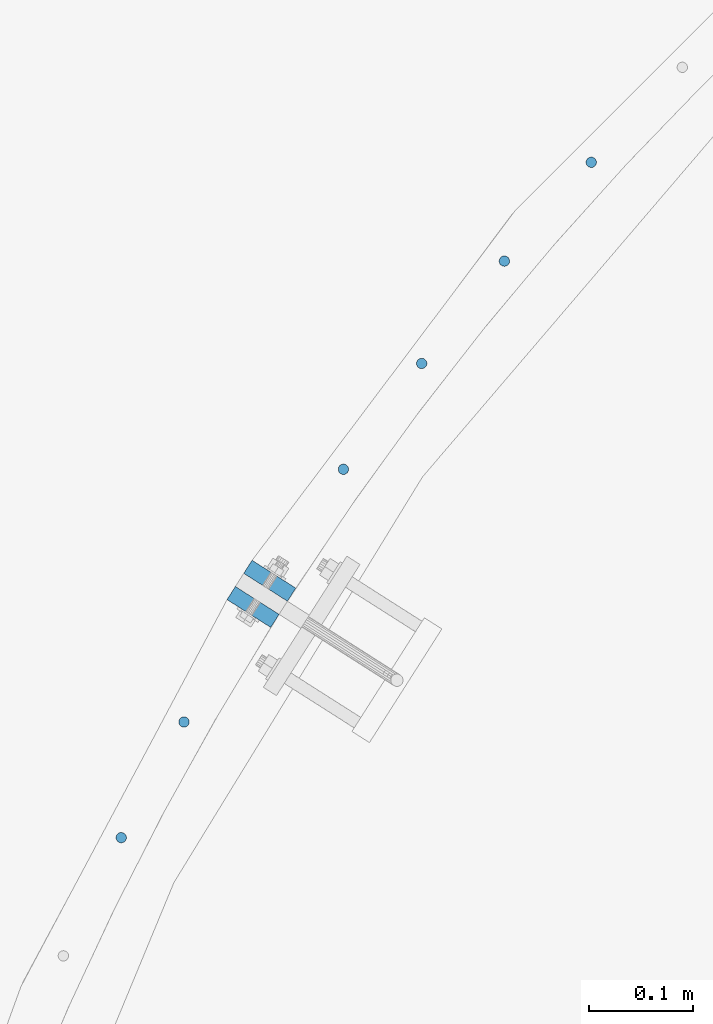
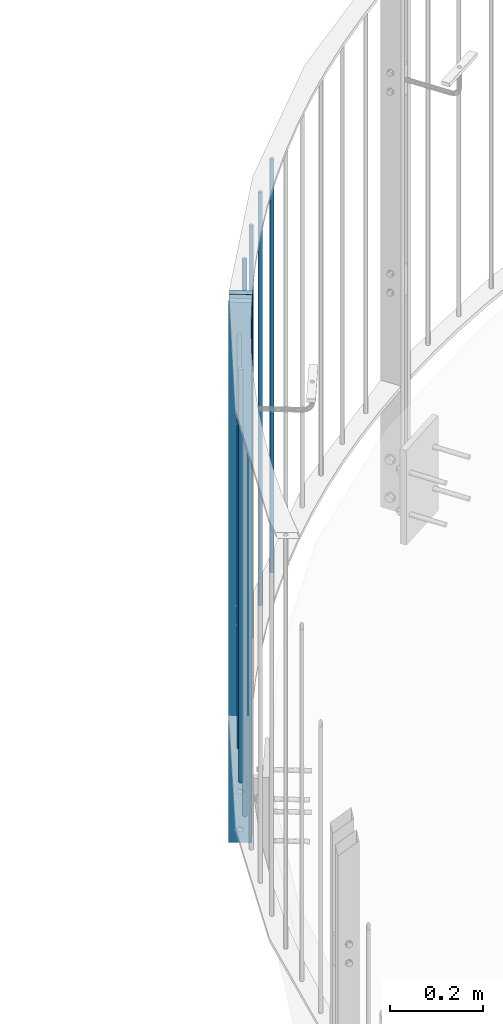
# One storey, part 62 of 296: 8 columns, 12 openings.
"""IFC2X3 building model written with IfcOpenShell, lengths in millimetres."""

from ifc_helpers import new_model, entity, si_unit, converted_unit, frame, frame_2d, origin, origin_with_axes, origin_2d, place, context, project, spatial, rectangle, circle, extrude, material, element, save


model = new_model("IFC2X3")

# Units and contexts
model_context = context("Model", 3, precision=1e-09, world=origin_with_axes())
ifc_project = project(units=[si_unit("LENGTHUNIT", "METRE", prefix="MILLI"), si_unit("AREAUNIT", "SQUARE_METRE"), si_unit("VOLUMEUNIT", "CUBIC_METRE"), converted_unit("PLANEANGLEUNIT", "DEGREE", entity("IfcPlaneAngleMeasure", 0.01745329), si_unit("PLANEANGLEUNIT", "RADIAN"), dimensions=[0, 0, 0, 0, 0, 0, 0])], contexts=[model_context])

# Site, building, storey
site_placement = place(None, origin_with_axes())
site = spatial("IfcSite", under=ifc_project, at=site_placement, Name="TZD-S?d | Treppenhausgel?nder", CompositionType="ELEMENT")
building_placement = place(site_placement, origin_with_axes())
building = spatial("IfcBuilding", under=site, at=building_placement, Name="Struktur 1", CompositionType="ELEMENT")
storey_placement = place(building_placement, origin_with_axes())
storey = spatial("IfcBuildingStorey", under=building, at=storey_placement, Name="Default Storey", CompositionType="ELEMENT", Elevation=0.0)

# Columns
ifc_material = material(Name="S235JR")
for number, where, z_axis, x_axis in (
    (1, (268.009652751, 1271.305762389, 7350.0), (0.0, 0.0, 1.0), (0.0, 1.0, 0.0)),
    (2, (328.618671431, 1382.861709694, 7350.0), (0.0, 0.0, 1.0), (0.0, 1.0, 0.0)),
    (3, (482.404589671, 1626.727106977, 7350.0), (0.0, 0.0, 1.0), (0.422618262, 0.906307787, 0.0)),
    (4, (557.894135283, 1728.803113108, 7350.0), (0.0, 0.0, 1.0), (0.422618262, 0.906307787, 0.0)),
    (5, (637.648869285, 1827.582488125, 7350.0), (0.0, 0.0, 1.0), (0.422618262, 0.906307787, 0.0)),
    (6, (721.525001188, 1922.887141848, 7350.0), (0.0, 0.0, 1.0), (0.422618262, 0.906307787, 0.0)),
):
    element("IfcColumn", number, at=place(None, frame(where, z_axis=z_axis, x_axis=x_axis)), inside=storey, material=ifc_material, Name="-", ObjectType="-", context=model_context, shape_type="SweptSolid", body=[
        extrude(circle(Radius=5.0, at=origin_2d()), origin(), (0.0, 0.0, 1.0), 1090.0),
    ])

# Column, openings
column_1_placement = place(None, frame((411.319071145, 1519.176700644, 7015.001), z_axis=(0.0, 0.0, -1.0), x_axis=(-0.537299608, -0.843391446, 0.0)))
column_1 = element("IfcColumn", 7, at=column_1_placement, inside=storey, material=ifc_material, Name="-", ObjectType="-", context=model_context, shape_type="SweptSolid", body=[
    extrude(rectangle(XDim=15.0, YDim=50.0, at=origin_2d()), origin(), (0.0, 0.0, -1.0), 1424.999),
])
opening_1_placement = place(column_1_placement, frame((-8.0, 0.0, -599.999999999), z_axis=(1.0, 0.0, 0.0), x_axis=(0.0, -1.0, 0.0)))
element("IfcOpeningElement", 8, at=opening_1_placement, cuts=column_1, ObjectType="Opening", context=model_context, shape_type="SweptSolid", body=[
    extrude(circle(Radius=5.001, at=frame_2d((0.0, 25.0), x_axis=(1.0, 0.0))), origin(), (0.0, 0.0, 1.0), 16.0),
])
opening_2_placement = place(column_1_placement, frame((-8.0, 0.0, -599.999999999), z_axis=(1.0, 0.0, 0.0), x_axis=(0.0, -1.0, 0.0)))
element("IfcOpeningElement", 9, at=opening_2_placement, cuts=column_1, ObjectType="Opening", context=model_context, shape_type="SweptSolid", body=[
    extrude(circle(Radius=5.001, at=frame_2d((0.0, -25.0), x_axis=(1.0, 0.0))), origin(), (0.0, 0.0, 1.0), 16.0),
])
opening_3_placement = place(column_1_placement, frame((-8.0, 0.0, -1129.999999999), z_axis=(1.0, 0.0, 0.0), x_axis=(0.0, -1.0, 0.0)))
element("IfcOpeningElement", 10, at=opening_3_placement, cuts=column_1, ObjectType="Opening", context=model_context, shape_type="SweptSolid", body=[
    extrude(circle(Radius=5.001, at=frame_2d((0.0, 25.0), x_axis=(1.0, 0.0))), origin(), (0.0, 0.0, 1.0), 16.0),
])
opening_4_placement = place(column_1_placement, frame((-8.0, 0.0, -1129.999999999), z_axis=(1.0, 0.0, 0.0), x_axis=(0.0, -1.0, 0.0)))
element("IfcOpeningElement", 11, at=opening_4_placement, cuts=column_1, ObjectType="Opening", context=model_context, shape_type="SweptSolid", body=[
    extrude(circle(Radius=5.001, at=frame_2d((0.0, -25.0), x_axis=(1.0, 0.0))), origin(), (0.0, 0.0, 1.0), 16.0),
])
opening_5_placement = place(column_1_placement, frame((-8.0, 0.0, -85.0), z_axis=(1.0, 0.0, 0.0), x_axis=(0.0, -1.0, 0.0)))
element("IfcOpeningElement", 12, at=opening_5_placement, cuts=column_1, ObjectType="Opening", context=model_context, shape_type="SweptSolid", body=[
    extrude(circle(Radius=7.001, at=frame_2d((0.0, 50.0), x_axis=(1.0, 0.0))), origin(), (0.0, 0.0, 1.0), 16.0),
])
opening_6_placement = place(column_1_placement, frame((-8.0, 0.0, -85.0), z_axis=(1.0, 0.0, 0.0), x_axis=(0.0, -1.0, 0.0)))
element("IfcOpeningElement", 13, at=opening_6_placement, cuts=column_1, ObjectType="Opening", context=model_context, shape_type="SweptSolid", body=[
    extrude(circle(Radius=7.001, at=frame_2d((0.0, -50.0), x_axis=(1.0, 0.0))), origin(), (0.0, 0.0, 1.0), 16.0),
])

column_2_placement = place(None, frame((395.200082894, 1493.87495727, 7015.001), z_axis=(0.0, 0.0, 1.0), x_axis=(0.537299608, 0.843391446, 0.0)))
column_2 = element("IfcColumn", 14, at=column_2_placement, inside=storey, material=ifc_material, Name="-", ObjectType="-", context=model_context, shape_type="SweptSolid", body=[
    extrude(rectangle(XDim=15.0, YDim=50.0, at=origin_2d()), origin(), (0.0, 0.0, 1.0), 1424.999),
])
opening_7_placement = place(column_2_placement, frame((8.0, 0.0, 599.999999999), z_axis=(-1.0, 0.0, 0.0), x_axis=(0.0, -1.0, 0.0)))
element("IfcOpeningElement", 15, at=opening_7_placement, cuts=column_2, ObjectType="Opening", context=model_context, shape_type="SweptSolid", body=[
    extrude(circle(Radius=5.001, at=frame_2d((0.0, 25.0), x_axis=(1.0, 0.0))), origin(), (0.0, 0.0, 1.0), 16.0),
])
opening_8_placement = place(column_2_placement, frame((8.0, 0.0, 599.999999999), z_axis=(-1.0, 0.0, 0.0), x_axis=(0.0, -1.0, 0.0)))
element("IfcOpeningElement", 16, at=opening_8_placement, cuts=column_2, ObjectType="Opening", context=model_context, shape_type="SweptSolid", body=[
    extrude(circle(Radius=5.001, at=frame_2d((0.0, -25.0), x_axis=(1.0, 0.0))), origin(), (0.0, 0.0, 1.0), 16.0),
])
opening_9_placement = place(column_2_placement, frame((8.0, 0.0, 85.0), z_axis=(-1.0, 0.0, 0.0), x_axis=(0.0, -1.0, 0.0)))
element("IfcOpeningElement", 17, at=opening_9_placement, cuts=column_2, ObjectType="Opening", context=model_context, shape_type="SweptSolid", body=[
    extrude(circle(Radius=7.001, at=frame_2d((0.0, 50.0), x_axis=(1.0, 0.0))), origin(), (0.0, 0.0, 1.0), 16.0),
])
opening_10_placement = place(column_2_placement, frame((8.0, 0.0, 85.0), z_axis=(-1.0, 0.0, 0.0), x_axis=(0.0, -1.0, 0.0)))
element("IfcOpeningElement", 18, at=opening_10_placement, cuts=column_2, ObjectType="Opening", context=model_context, shape_type="SweptSolid", body=[
    extrude(circle(Radius=7.001, at=frame_2d((0.0, -50.0), x_axis=(1.0, 0.0))), origin(), (0.0, 0.0, 1.0), 16.0),
])
opening_11_placement = place(column_2_placement, frame((8.0, 0.0, 1129.999999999), z_axis=(-1.0, 0.0, 0.0), x_axis=(0.0, -1.0, 0.0)))
element("IfcOpeningElement", 19, at=opening_11_placement, cuts=column_2, ObjectType="Opening", context=model_context, shape_type="SweptSolid", body=[
    extrude(circle(Radius=5.001, at=frame_2d((0.0, 25.0), x_axis=(1.0, 0.0))), origin(), (0.0, 0.0, 1.0), 16.0),
])
opening_12_placement = place(column_2_placement, frame((8.0, 0.0, 1129.999999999), z_axis=(-1.0, 0.0, 0.0), x_axis=(0.0, -1.0, 0.0)))
element("IfcOpeningElement", 20, at=opening_12_placement, cuts=column_2, ObjectType="Opening", context=model_context, shape_type="SweptSolid", body=[
    extrude(circle(Radius=5.001, at=frame_2d((0.0, -25.0), x_axis=(1.0, 0.0))), origin(), (0.0, 0.0, 1.0), 16.0),
])

save(model, "model.ifc")
